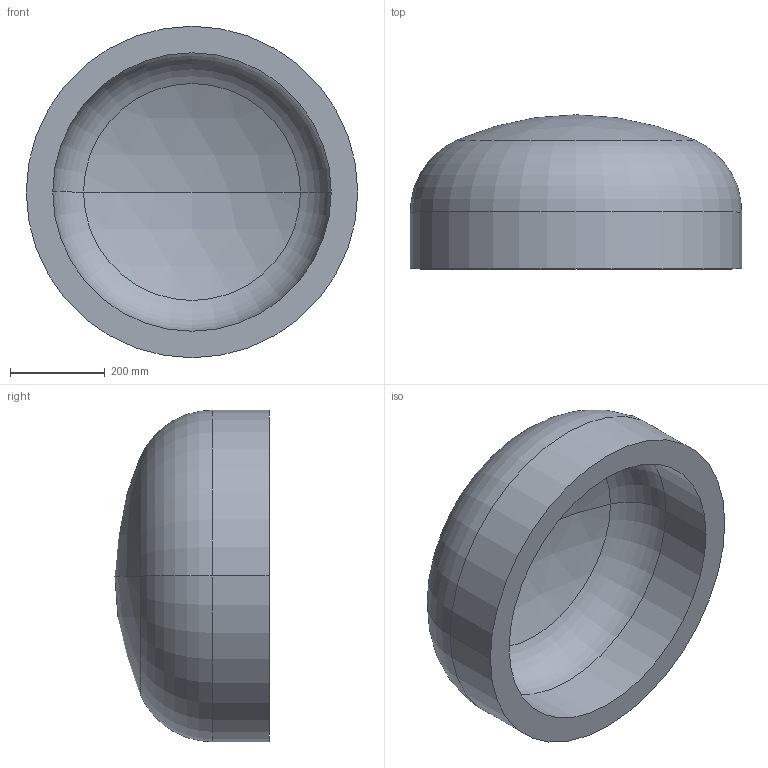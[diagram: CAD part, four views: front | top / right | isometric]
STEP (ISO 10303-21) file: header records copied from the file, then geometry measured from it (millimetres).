
FILE_DESCRIPTION (( 'STEP AP203' ), '1' );
FILE_NAME ('DIN 28013 Korbbogenform_-_Boden DIN 28013 - 700 x 120 - I - s=56.step', '2016-07-01T08:09:13', ( '' ), ( '' ), 'SwSTEP 2.0', 'SolidWorks 2013', '' );
FILE_SCHEMA (( 'CONFIG_CONTROL_DESIGN' ));
Length unit declared in the file: millimetre
Products named in the file (1): DIN 28013 Korbbogenform_-_Boden DIN 28013 - 700 x 120 - I - s=56
Bounding box: 700 x 325.34 x 700 mm (x, y, z)
Volume: 40707795.4 mm3; surface area: 1573716 mm2
Topology: 1 solids, 1 shells, 13 faces, 24 edges, 14 vertices
Faces by surface type: torus 4, cylinder 4, sphere 4, plane 1
Entity records: 407 total; most frequent: DIRECTION 72, CARTESIAN_POINT 52, ORIENTED_EDGE 48, AXIS2_PLACEMENT_3D 34, EDGE_CURVE 24, CIRCLE 20, EDGE_LOOP 14, VERTEX_POINT 14
